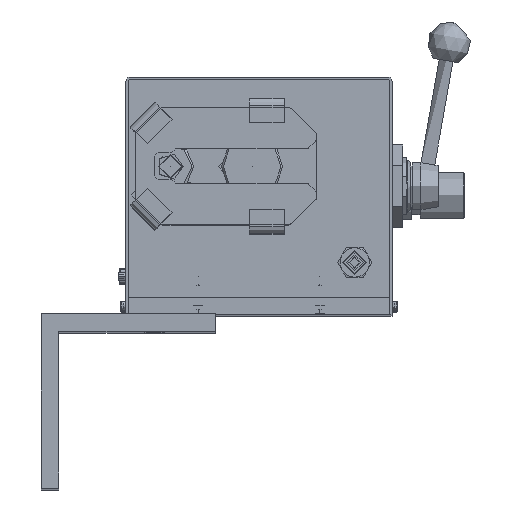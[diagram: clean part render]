
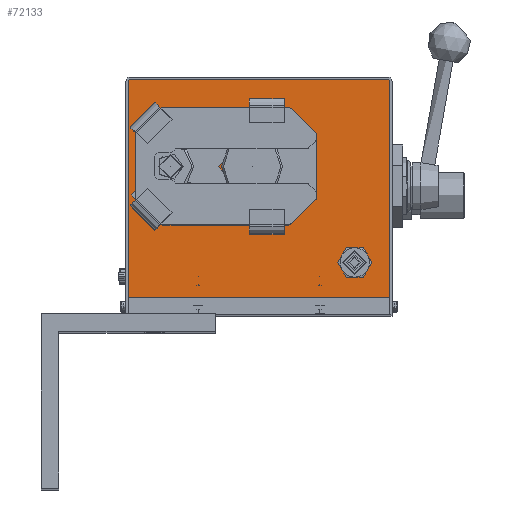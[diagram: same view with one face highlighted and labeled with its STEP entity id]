
A CAD part, top view. The second image highlights one B-rep face of the part: STEP entity #72133.
In plain terms, the highlighted planar face has unit normal (0, 0, 1) as drawn and (-1, 0, 0) by its records, which use the part's own axes.
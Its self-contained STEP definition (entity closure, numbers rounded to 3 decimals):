
#5244=FACE_BOUND($,#10490,.T.);
#5245=FACE_BOUND($,#10491,.T.);
#5246=FACE_BOUND($,#10492,.T.);
#5247=FACE_BOUND($,#10493,.T.);
#5248=FACE_BOUND($,#10494,.T.);
#5249=FACE_BOUND($,#10495,.T.);
#5250=FACE_BOUND($,#10496,.T.);
#5251=FACE_BOUND($,#10497,.T.);
#5252=FACE_BOUND($,#10498,.T.);
#5253=FACE_BOUND($,#10499,.T.);
#6334=FACE_OUTER_BOUND($,#10489,.T.);
#10489=EDGE_LOOP($,(#50670,#50671,#50672,#50673,#50674,#50675));
#10490=EDGE_LOOP($,(#50676));
#10491=EDGE_LOOP($,(#50677));
#10492=EDGE_LOOP($,(#50678));
#10493=EDGE_LOOP($,(#50679));
#10494=EDGE_LOOP($,(#50680));
#10495=EDGE_LOOP($,(#50681));
#10496=EDGE_LOOP($,(#50682));
#10497=EDGE_LOOP($,(#50683));
#10498=EDGE_LOOP($,(#50684));
#10499=EDGE_LOOP($,(#50685));
#15135=LINE($,#100241,#23097);
#15136=LINE($,#100243,#23098);
#15137=LINE($,#100245,#23099);
#15138=LINE($,#100247,#23100);
#15139=LINE($,#100249,#23101);
#15140=LINE($,#100250,#23102);
#23097=VECTOR($,#82742,1.414);
#23098=VECTOR($,#82743,148.);
#23099=VECTOR($,#82744,1.414);
#23100=VECTOR($,#82745,124.);
#23101=VECTOR($,#82746,150.);
#23102=VECTOR($,#82747,124.);
#30681=CIRCLE($,#76496,10.);
#30682=CIRCLE($,#76497,10.);
#30683=CIRCLE($,#76498,2.1);
#30684=CIRCLE($,#76499,2.1);
#30685=CIRCLE($,#76500,2.1);
#30686=CIRCLE($,#76501,6.25);
#30687=CIRCLE($,#76502,6.25);
#30688=CIRCLE($,#76503,6.25);
#30689=CIRCLE($,#76504,6.25);
#30690=CIRCLE($,#76505,7.25);
#32172=VERTEX_POINT($,#100239);
#32173=VERTEX_POINT($,#100240);
#32174=VERTEX_POINT($,#100242);
#32175=VERTEX_POINT($,#100244);
#32176=VERTEX_POINT($,#100246);
#32177=VERTEX_POINT($,#100248);
#32178=VERTEX_POINT($,#100251);
#32179=VERTEX_POINT($,#100253);
#32180=VERTEX_POINT($,#100255);
#32181=VERTEX_POINT($,#100257);
#32182=VERTEX_POINT($,#100259);
#32183=VERTEX_POINT($,#100261);
#32184=VERTEX_POINT($,#100263);
#32185=VERTEX_POINT($,#100265);
#32186=VERTEX_POINT($,#100267);
#32187=VERTEX_POINT($,#100269);
#39403=EDGE_CURVE($,#32172,#32173,#15135,.T.);
#39404=EDGE_CURVE($,#32174,#32173,#15136,.T.);
#39405=EDGE_CURVE($,#32174,#32175,#15137,.T.);
#39406=EDGE_CURVE($,#32176,#32175,#15138,.T.);
#39407=EDGE_CURVE($,#32177,#32176,#15139,.T.);
#39408=EDGE_CURVE($,#32172,#32177,#15140,.T.);
#39409=EDGE_CURVE($,#32178,#32178,#30681,.T.);
#39410=EDGE_CURVE($,#32179,#32179,#30682,.T.);
#39411=EDGE_CURVE($,#32180,#32180,#30683,.T.);
#39412=EDGE_CURVE($,#32181,#32181,#30684,.T.);
#39413=EDGE_CURVE($,#32182,#32182,#30685,.T.);
#39414=EDGE_CURVE($,#32183,#32183,#30686,.T.);
#39415=EDGE_CURVE($,#32184,#32184,#30687,.T.);
#39416=EDGE_CURVE($,#32185,#32185,#30688,.T.);
#39417=EDGE_CURVE($,#32186,#32186,#30689,.T.);
#39418=EDGE_CURVE($,#32187,#32187,#30690,.T.);
#50670=ORIENTED_EDGE($,*,*,#39403,.T.);
#50671=ORIENTED_EDGE($,*,*,#39404,.F.);
#50672=ORIENTED_EDGE($,*,*,#39405,.T.);
#50673=ORIENTED_EDGE($,*,*,#39406,.F.);
#50674=ORIENTED_EDGE($,*,*,#39407,.F.);
#50675=ORIENTED_EDGE($,*,*,#39408,.F.);
#50676=ORIENTED_EDGE($,*,*,#39409,.T.);
#50677=ORIENTED_EDGE($,*,*,#39410,.F.);
#50678=ORIENTED_EDGE($,*,*,#39411,.F.);
#50679=ORIENTED_EDGE($,*,*,#39412,.F.);
#50680=ORIENTED_EDGE($,*,*,#39413,.F.);
#50681=ORIENTED_EDGE($,*,*,#39414,.T.);
#50682=ORIENTED_EDGE($,*,*,#39415,.T.);
#50683=ORIENTED_EDGE($,*,*,#39416,.T.);
#50684=ORIENTED_EDGE($,*,*,#39417,.T.);
#50685=ORIENTED_EDGE($,*,*,#39418,.F.);
#69114=PLANE($,#76495);
#72133=ADVANCED_FACE($,(#6334,#5244,#5245,#5246,#5247,#5248,#5249,#5250,
#5251,#5252,#5253),#69114,.T.);
#76495=AXIS2_PLACEMENT_3D($,#100238,#82740,#82741);
#76496=AXIS2_PLACEMENT_3D($,#100252,#82748,#82749);
#76497=AXIS2_PLACEMENT_3D($,#100254,#82750,#82751);
#76498=AXIS2_PLACEMENT_3D($,#100256,#82752,#82753);
#76499=AXIS2_PLACEMENT_3D($,#100258,#82754,#82755);
#76500=AXIS2_PLACEMENT_3D($,#100260,#82756,#82757);
#76501=AXIS2_PLACEMENT_3D($,#100262,#82758,#82759);
#76502=AXIS2_PLACEMENT_3D($,#100264,#82760,#82761);
#76503=AXIS2_PLACEMENT_3D($,#100266,#82762,#82763);
#76504=AXIS2_PLACEMENT_3D($,#100268,#82764,#82765);
#76505=AXIS2_PLACEMENT_3D($,#100270,#82766,#82767);
#82740=DIRECTION('center_axis',(-1.,0.,0.));
#82741=DIRECTION('ref_axis',(0.,0.,1.));
#82742=DIRECTION($,(0.,0.707,0.707));
#82743=DIRECTION($,(0.,-1.,0.));
#82744=DIRECTION($,(0.,0.707,-0.707));
#82745=DIRECTION($,(0.,0.,1.));
#82746=DIRECTION($,(0.,1.,0.));
#82747=DIRECTION($,(0.,0.,-1.));
#82748=DIRECTION('center_axis',(1.,0.,0.));
#82749=DIRECTION('ref_axis',(0.,0.,-1.));
#82750=DIRECTION('center_axis',(-1.,0.,0.));
#82751=DIRECTION('ref_axis',(0.,0.,1.));
#82752=DIRECTION('center_axis',(-1.,0.,0.));
#82753=DIRECTION('ref_axis',(0.,0.,1.));
#82754=DIRECTION('center_axis',(-1.,0.,0.));
#82755=DIRECTION('ref_axis',(0.,0.,1.));
#82756=DIRECTION('center_axis',(-1.,0.,0.));
#82757=DIRECTION('ref_axis',(0.,0.,1.));
#82758=DIRECTION('center_axis',(1.,0.,0.));
#82759=DIRECTION('ref_axis',(0.,0.,-1.));
#82760=DIRECTION('center_axis',(1.,0.,0.));
#82761=DIRECTION('ref_axis',(0.,0.,-1.));
#82762=DIRECTION('center_axis',(1.,0.,0.));
#82763=DIRECTION('ref_axis',(0.,0.,-1.));
#82764=DIRECTION('center_axis',(1.,0.,0.));
#82765=DIRECTION('ref_axis',(0.,0.,-1.));
#82766=DIRECTION('center_axis',(-1.,0.,0.));
#82767=DIRECTION('ref_axis',(0.,-1.,0.));
#100238=CARTESIAN_POINT('Origin',(34.,6.,0.));
#100239=CARTESIAN_POINT('',(34.,-24.,49.));
#100240=CARTESIAN_POINT('',(34.,-23.,50.));
#100241=CARTESIAN_POINT($,(34.,-24.,49.));
#100242=CARTESIAN_POINT('',(34.,125.,50.));
#100243=CARTESIAN_POINT($,(34.,125.,50.));
#100244=CARTESIAN_POINT('',(34.,126.,49.));
#100245=CARTESIAN_POINT($,(34.,125.,50.));
#100246=CARTESIAN_POINT('',(34.,126.,-75.));
#100247=CARTESIAN_POINT($,(34.,126.,-75.));
#100248=CARTESIAN_POINT('',(34.,-24.,-75.));
#100249=CARTESIAN_POINT($,(34.,-24.,-75.));
#100250=CARTESIAN_POINT($,(34.,-24.,49.));
#100251=CARTESIAN_POINT('',(34.,55.,10.));
#100252=CARTESIAN_POINT('Origin',(34.,55.,0.));
#100253=CARTESIAN_POINT('',(34.,102.,10.));
#100254=CARTESIAN_POINT('Origin',(34.,102.,0.));
#100255=CARTESIAN_POINT('',(34.,70.5,27.6));
#100256=CARTESIAN_POINT('Origin',(34.,70.5,25.5));
#100257=CARTESIAN_POINT('',(34.,92.5,-10.794));
#100258=CARTESIAN_POINT('Origin',(34.,92.5,-12.894));
#100259=CARTESIAN_POINT('',(34.,48.5,-10.794));
#100260=CARTESIAN_POINT('Origin',(34.,48.5,-12.894));
#100261=CARTESIAN_POINT('',(34.,85.75,22.5));
#100262=CARTESIAN_POINT('Origin',(34.,85.75,16.25));
#100263=CARTESIAN_POINT('',(34.,118.25,-10.));
#100264=CARTESIAN_POINT('Origin',(34.,118.25,-16.25));
#100265=CARTESIAN_POINT('',(34.,71.25,-10.));
#100266=CARTESIAN_POINT('Origin',(34.,71.25,-16.25));
#100267=CARTESIAN_POINT('',(34.,38.75,22.5));
#100268=CARTESIAN_POINT('Origin',(34.,38.75,16.25));
#100269=CARTESIAN_POINT('',(34.,-11.25,-55.));
#100270=CARTESIAN_POINT('Origin',(34.,-4.,-55.));
